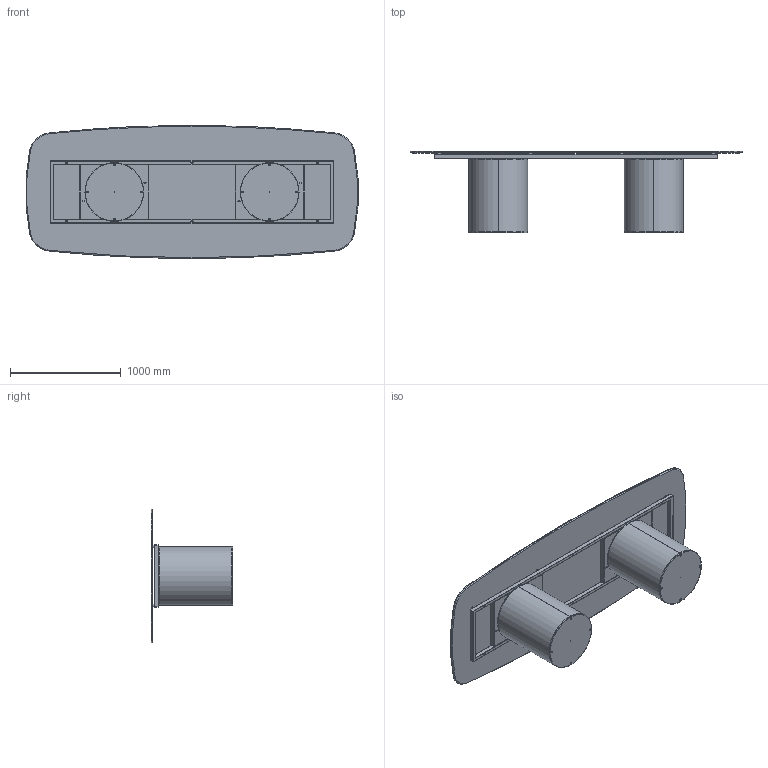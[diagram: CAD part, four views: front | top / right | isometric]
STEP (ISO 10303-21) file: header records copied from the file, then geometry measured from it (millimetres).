
FILE_DESCRIPTION (( 'STEP AP203' ), '1' );
FILE_NAME ('CI44C.STEP', '2024-08-08T07:11:37', ( '' ), ( '' ), 'SwSTEP 2.0', 'SolidWorks 2022', '' );
FILE_SCHEMA (( 'CONFIG_CONTROL_DESIGN' ));
Length unit declared in the file: millimetre
Products named in the file (11): 434070-00-PIEDINO TPV GOMMA NERO D. 30x8max18_filo estetico; C2B000000_01-00-struttura cilindro D.530mm; C2B000000_02-01-ZAVORRA IN FERRO D.530mm; COLLO TELAIO UNIVERSALE TTAV03 CON FERRAMENTA_MTG TOP CRISTALLO VERNICIATO-CERAMICA; TTAV03_02-06-VASSOIO IRRIGIDIMENTO TELAIO UNIVERSALE RETTANGOLARE; TTAV03-06-TELAIO UNIVERSALE X TAVOLI 300-340cm; TTAV03_01-06-RING TUBO TELAIO UNIVERSALE X TAVOLI 300-340cm; CI44C; M8xXXmm_hex_M8X20mm; C2B000000-03-CILINDRO BASE D.530mm_Normale; K4XCMXX-00-Piani Sagomati in ceramica_3000 x 1200
Assembly tree (22 placements, depth 4):
  CI44C
    C2B000000-03-CILINDRO BASE D.530mm_Normale  x2
      C2B000000_01-00-struttura cilindro D.530mm
      C2B000000_02-01-ZAVORRA IN FERRO D.530mm
      M8xXXmm_hex_M8X20mm
    COLLO TELAIO UNIVERSALE TTAV03 CON FERRAMENTA_MTG TOP CRISTALLO VERNICIATO-CERAMICA
      TTAV03-06-TELAIO UNIVERSALE X TAVOLI 300-340cm
        TTAV03_01-06-RING TUBO TELAIO UNIVERSALE X TAVOLI 300-340cm
        TTAV03_02-06-VASSOIO IRRIGIDIMENTO TELAIO UNIVERSALE RETTANGOLARE  x2
      434070-00-PIEDINO TPV GOMMA NERO D. 30x8max18_filo estetico  x8
    K4XCMXX-00-Piani Sagomati in ceramica_3000 x 1200
Bounding box: 2991.72 x 736 x 1200 mm (x, y, z)
Volume: 68133208.9 mm3; surface area: 22587501.5 mm2
Topology: 39 solids, 39 shells, 995 faces, 2253 edges, 1314 vertices
Faces by surface type: plane 444, cylinder 362, cone 105, torus 48, sphere 36
Entity records: 14172 total; most frequent: DIRECTION 2369, CARTESIAN_POINT 2141, ORIENTED_EDGE 2062, EDGE_CURVE 1031, AXIS2_PLACEMENT_3D 887, VERTEX_POINT 627, LINE 595, VECTOR 595
